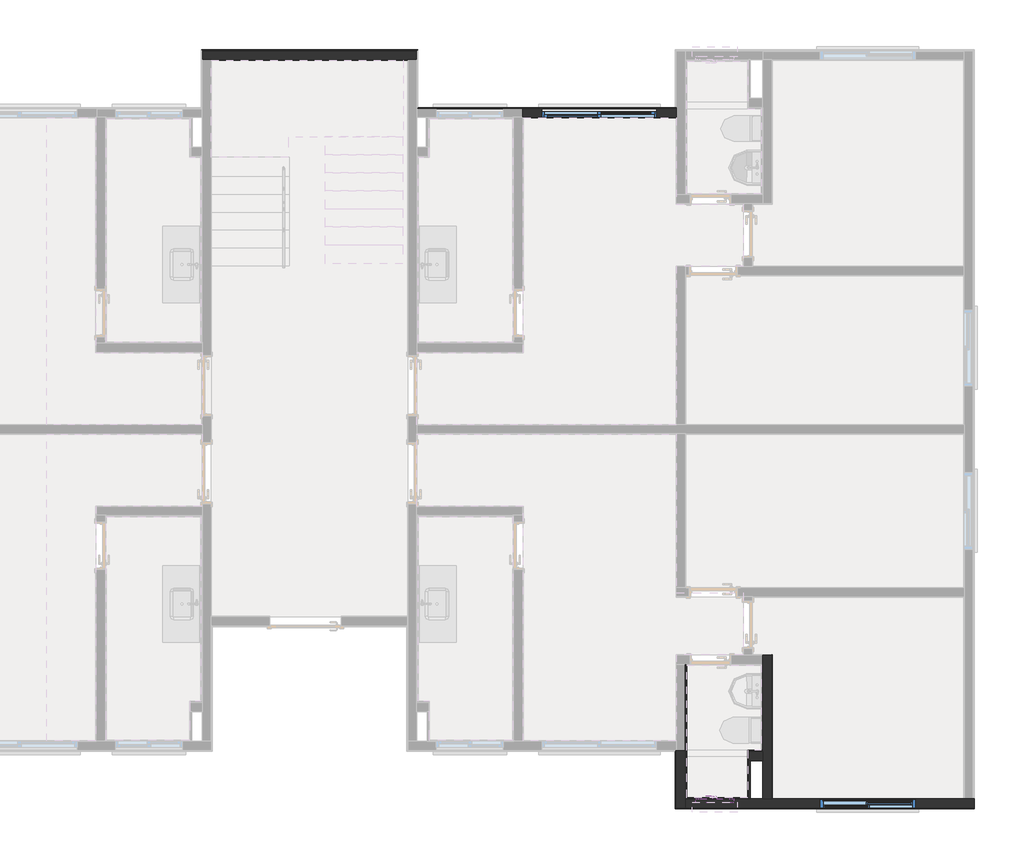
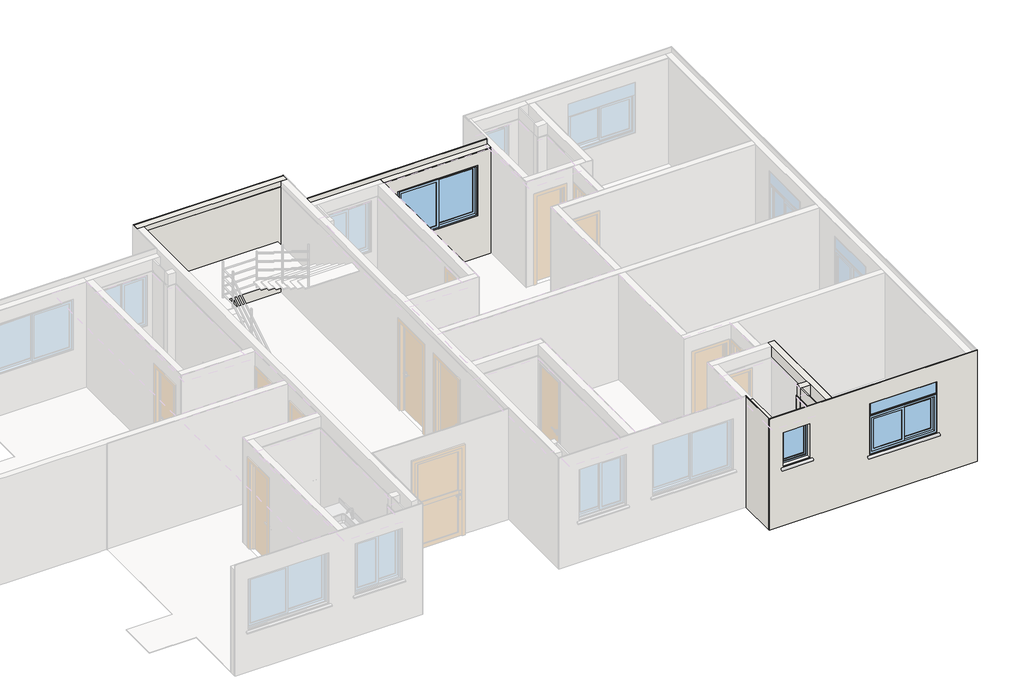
# One storey, part 7 of 11: 21 walls, 3 windows.
"""IFC4 building model written with IfcOpenShell, lengths in millimetres."""

from ifc_helpers import new_model, si_unit, frame, origin, origin_with_axes, place, context, project, spatial, polyline, outline, extrude, faceted_brep, transform, mapped, element, save
from components import window_150x120_d34a449e, window_180x120_f0fd8075, window_60x80_6d4336cf

model = new_model("IFC4")

# Units and contexts
model_context = context("Model", 3, world=origin())
ifc_project = project(units=[si_unit("LENGTHUNIT", "METRE", prefix="MILLI")], contexts=[model_context])

# Site, building, storey
site = spatial("IfcSite", under=ifc_project)
building = spatial("IfcBuilding", under=site)
storey = spatial("IfcBuildingStorey", under=building, Name="Térreo", Elevation=0.0)

# Walls
placement = place(None, origin())
element("IfcWall", 1, ObjectType="Mureta box", at=placement, inside=storey, context=model_context, shape_type="SweptSolid", body=[
    extrude(outline(polyline([(17290.0007274, 1294.9970972), (16310.0007274, 1294.9970972), (16310.0007274, 1304.9970972), (17290.0007274, 1304.9970972), (17290.0007274, 1294.9970972)])), origin_with_axes(), (0.0, 0.0, 1.0), 90.0),
    extrude(outline(polyline([(16310.0007274, 1374.9970972), (17290.0007274, 1374.9970972), (17290.0007274, 1364.9970972), (16310.0007274, 1364.9970972), (16310.0007274, 1374.9970972)])), origin_with_axes(), (0.0, 0.0, 1.0), 90.0),
    extrude(outline(polyline([(17290.0007274, 1294.9970972), (16310.0007274, 1294.9970972), (16310.0007274, 1304.9970972), (17290.0007274, 1304.9970972), (17290.0007274, 1294.9970972)])), origin_with_axes(), (0.0, 0.0, 1.0), 90.0),
    extrude(outline(polyline([(16310.0007274, 1374.9970972), (17290.0007274, 1374.9970972), (17290.0007274, 1364.9970972), (16310.0007274, 1364.9970972), (16310.0007274, 1374.9970972)])), origin_with_axes(), (0.0, 0.0, 1.0), 90.0),
    extrude(outline(polyline([(17290.0007274, 1364.9970972), (17290.0007274, 1304.9970972), (16310.0007274, 1304.9970972), (16310.0007274, 1364.9970972), (17290.0007274, 1364.9970972)])), origin_with_axes(), (0.0, 0.0, 1.0), 90.0),
    extrude(outline(polyline([(17290.0007274, 1364.9970972), (17290.0007274, 1304.9970972), (16310.0007274, 1304.9970972), (16310.0007274, 1364.9970972), (17290.0007274, 1364.9970972)])), origin_with_axes(), (0.0, 0.0, 1.0), 90.0),
])
element("IfcWall", 2, ObjectType="Alvenaria Estrutural", at=placement, inside=storey, context=model_context, shape_type="Brep", body=[
    faceted_brep([(12089.9984066, 12179.9995833, 0.0), (12089.9984066, 12179.9995833, 2630.0), (11949.9984066, 12179.9995833, 2630.0), (8869.9963008, 12179.9995833, 2630.0), (8729.9963008, 12179.9995833, 2630.0), (8729.9963008, 12179.9995833, 0.0), (8869.9963008, 12179.9995833, 0.0), (8875.9991022, 12179.9995833, 0.0), (11949.9984066, 12179.9995833, 0.0), (12089.9984066, 12319.9995833, 0.0), (8729.9963008, 12319.9995833, 0.0), (8729.9963008, 12319.9995833, 2630.0), (12089.9984066, 12319.9995833, 2630.0)], [[[0, 1, 2, 3, 4, 5, 6, 7, 8]], [[9, 10, 11, 12]], [[6, 5, 10, 9, 0, 8, 7]], [[2, 1, 12, 11, 4, 3]], [[5, 4, 11, 10]], [[1, 0, 9, 12]]]),
    faceted_brep([(11949.9984066, 12179.9995833, 2630.0), (12089.9984066, 12179.9995833, 2630.0), (12089.9984066, 12319.9995833, 2630.0), (8729.9963008, 12319.9995833, 2630.0), (8729.9963008, 12179.9995833, 2630.0), (8869.9963008, 12179.9995833, 2630.0), (8729.9963008, 12179.9995833, 0.0), (8729.9963008, 12319.9995833, 0.0), (12089.9984066, 12319.9995833, 0.0), (12089.9984066, 12179.9995833, 0.0), (8869.9963008, 12179.9995833, 0.0), (8875.9991022, 12179.9995833, 0.0), (11949.9984066, 12179.9995833, 0.0)], [[[0, 1, 2, 3, 4, 5]], [[6, 4, 3, 7]], [[7, 3, 2, 8]], [[9, 1, 0, 5, 4, 6, 10, 11, 12]], [[1, 9, 8, 2]], [[9, 12, 11, 10, 6, 7, 8]]]),
])
element("IfcWall", 3, ObjectType="Alvenaria Estrutural", at=placement, inside=storey, context=model_context, shape_type="Brep", body=[
    faceted_brep([(17499.9970535, 1359.9970972, 0.0), (17280.0007274, 1359.9970972, 0.0), (17280.0007274, 1359.9970972, 2510.0), (17499.9970535, 1359.9970972, 2510.0), (17499.9970535, 1219.9970972, 0.0), (17499.9970535, 1219.9970972, 2510.0), (17303.0007274, 1219.9970972, 2510.0), (17280.0007274, 1219.9970972, 2510.0), (17280.0007274, 1219.9970972, 0.0), (17303.0007274, 1219.9970972, 0.0)], [[[0, 1, 2, 3]], [[4, 5, 6, 7, 8, 9]], [[1, 0, 4, 9, 8]], [[3, 2, 7, 6, 5]], [[2, 1, 8, 7]], [[0, 3, 5, 4]]]),
    faceted_brep([(17499.9970535, 1359.9970972, 0.0), (17280.0007274, 1359.9970972, 0.0), (17280.0007274, 1359.9970972, 2510.0), (17499.9970535, 1359.9970972, 2510.0), (17499.9970535, 1219.9970972, 0.0), (17303.0007274, 1219.9970972, 0.0), (17280.0007274, 1219.9970972, 0.0), (17280.0007274, 1219.9970972, 2510.0), (17303.0007274, 1219.9970972, 2510.0), (17499.9970535, 1219.9970972, 2510.0)], [[[0, 1, 2, 3]], [[1, 0, 4, 5, 6]], [[3, 2, 7, 8, 9]], [[4, 9, 8, 7, 6, 5]], [[2, 1, 6, 7]], [[0, 3, 9, 4]]]),
])
element("IfcWall", 4, ObjectType="Alvenaria Estrutural", at=placement, inside=storey, context=model_context, shape_type="Brep", body=[
    faceted_brep([(17639.9970535, 619.9952456, 0.0), (17639.9970535, 625.9952456, 0.0), (17639.9970535, 2869.9967615, 0.0), (17639.9970535, 2869.9967615, 2510.0), (17639.9970535, 625.9952456, 2510.0), (17639.9970535, 619.9952456, 2510.0), (17499.9970535, 619.9952456, 0.0), (17499.9970535, 619.9952456, 2510.0), (17499.9970535, 1219.9970972, 2510.0), (17499.9970535, 1359.9970972, 2510.0), (17499.9970535, 2729.9967615, 2510.0), (17499.9970535, 2869.9967615, 2510.0), (17499.9970535, 2869.9967615, 0.0), (17499.9970535, 2729.9967615, 0.0), (17499.9970535, 2709.9967615, 0.0), (17499.9970535, 1379.9970972, 0.0), (17499.9970535, 1359.9970972, 0.0), (17499.9970535, 1219.9970972, 0.0)], [[[0, 1, 2, 3, 4, 5]], [[6, 7, 8, 9, 10, 11, 12, 13, 14, 15, 16, 17]], [[1, 0, 6, 17, 16, 15, 14, 13, 12, 2]], [[4, 3, 11, 10, 9, 8, 7, 5]], [[3, 2, 12, 11]], [[0, 5, 7, 6]]]),
    faceted_brep([(17639.9970535, 625.9952456, 0.0), (17639.9970535, 619.9952456, 0.0), (17499.9970535, 619.9952456, 0.0), (17499.9970535, 1219.9970972, 0.0), (17499.9970535, 1359.9970972, 0.0), (17499.9970535, 1379.9970972, 0.0), (17499.9970535, 2709.9967615, 0.0), (17499.9970535, 2729.9967615, 0.0), (17499.9970535, 2869.9967615, 0.0), (17639.9970535, 2869.9967615, 0.0), (17639.9970535, 625.9952456, 2510.0), (17639.9970535, 2869.9967615, 2510.0), (17499.9970535, 2869.9967615, 2510.0), (17499.9970535, 2729.9967615, 2510.0), (17499.9970535, 1359.9970972, 2510.0), (17499.9970535, 1219.9970972, 2510.0), (17499.9970535, 619.9952456, 2510.0), (17639.9970535, 619.9952456, 2510.0)], [[[0, 1, 2, 3, 4, 5, 6, 7, 8, 9]], [[10, 11, 12, 13, 14, 15, 16, 17]], [[1, 0, 9, 11, 10, 17]], [[2, 16, 15, 14, 13, 12, 8, 7, 6, 5, 4, 3]], [[11, 9, 8, 12]], [[1, 17, 16, 2]]]),
])
element("IfcWall", 5, ObjectType="Alvenaria Estrutural", at=placement, inside=storey, context=model_context, shape_type="Brep", body=[
    faceted_brep([(16289.9960602, 479.9952456, 0.0), (16289.9960602, 619.9952456, 0.0), (16289.9960602, 1374.9970972, 0.0), (16289.9960602, 1374.9970972, 2510.0), (16289.9960602, 619.9952456, 2510.0), (16289.9960602, 479.9952456, 2510.0), (16149.9960602, 479.9952456, 0.0), (16149.9960602, 479.9952456, 2510.0), (16149.9960602, 1374.9970972, 2510.0), (16149.9960602, 1374.9970972, 0.0)], [[[0, 1, 2, 3, 4, 5]], [[6, 7, 8, 9]], [[1, 0, 6, 9, 2]], [[3, 2, 9, 8]], [[4, 3, 8, 7, 5]], [[0, 5, 7, 6]]]),
    faceted_brep([(16289.9960602, 619.9952456, 0.0), (16289.9960602, 479.9952456, 0.0), (16149.9960602, 479.9952456, 0.0), (16149.9960602, 1374.9970972, 0.0), (16289.9960602, 1374.9970972, 0.0), (16289.9960602, 1374.9970972, 2510.0), (16149.9960602, 1374.9970972, 2510.0), (16289.9960602, 619.9952456, 2510.0), (16149.9960602, 479.9952456, 2510.0), (16289.9960602, 479.9952456, 2510.0)], [[[0, 1, 2, 3, 4]], [[5, 4, 3, 6]], [[7, 5, 6, 8, 9]], [[2, 8, 6, 3]], [[1, 0, 4, 5, 7, 9]], [[1, 9, 8, 2]]]),
])
element("IfcWall", 6, ObjectType="Alvenaria Estrutural", at=placement, inside=storey, context=model_context, shape_type="Brep", body=[
    faceted_brep([(16149.9956991, 11420.0223004, 0.0), (16133.9970535, 11420.0223004, 0.0), (13739.9956991, 11420.0223004, 0.0), (13739.9956991, 11420.0223004, 2510.0), (16149.9956991, 11420.0223004, 2510.0), (14044.9954574, 11420.0223004, 2200.0), (14044.9954574, 11420.0223004, 1000.0), (13994.9954574, 11420.0223004, 1000.0), (13994.9954574, 11420.0223004, 951.3083694), (15894.9954574, 11420.0223004, 951.3083694), (15894.9954574, 11420.0223004, 1000.0), (15844.9954574, 11420.0223004, 1000.0), (15844.9954574, 11420.0223004, 2200.0), (13739.9956991, 11280.0223004, 0.0), (13746.9960213, 11280.0223004, 0.0), (13752.9960213, 11280.0223004, 0.0), (16143.9956991, 11280.0223004, 0.0), (16149.9956991, 11280.0223004, 0.0), (16149.9956991, 11280.0223004, 2510.0), (16143.9956991, 11280.0223004, 2510.0), (13752.9960213, 11280.0223004, 2510.0), (13746.9960213, 11280.0223004, 2510.0), (13739.9956991, 11280.0223004, 2510.0), (14044.9954574, 11280.0223004, 1000.0), (14044.9954574, 11280.0223004, 2200.0), (15844.9954574, 11280.0223004, 2200.0), (15844.9954574, 11280.0223004, 1000.0), (14044.9954574, 11322.5223004, 1000.0), (15844.9954574, 11322.5223004, 1000.0), (15894.9954574, 11322.5223004, 972.0326341), (15894.9954574, 11322.5223004, 1000.0), (13994.9954574, 11322.5223004, 1000.0), (13994.9954574, 11322.5223004, 972.0326341)], [[[0, 1, 2, 3, 4], [5, 6, 7, 8, 9, 10, 11, 12]], [[13, 14, 15, 16, 17, 18, 19, 20, 21, 22], [23, 24, 25, 26]], [[1, 0, 17, 16, 15, 14, 13, 2]], [[3, 2, 13, 22]], [[4, 3, 22, 21, 20, 19, 18]], [[0, 4, 18, 17]], [[6, 5, 24, 23, 27]], [[5, 12, 25, 24]], [[12, 11, 28, 26, 25]], [[23, 26, 28, 27]], [[10, 9, 29, 30]], [[8, 7, 31, 32]], [[27, 28, 30, 29, 32, 31]], [[11, 10, 30, 28]], [[9, 8, 32, 29]], [[7, 6, 27, 31]]]),
    faceted_brep([(16133.9970535, 11420.0223004, 0.0), (16149.9956991, 11420.0223004, 0.0), (16149.9956991, 11280.0223004, 0.0), (16143.9956991, 11280.0223004, 0.0), (13752.9960213, 11280.0223004, 0.0), (13746.9960213, 11280.0223004, 0.0), (13739.9956991, 11280.0223004, 0.0), (13739.9956991, 11420.0223004, 0.0), (13739.9956991, 11420.0223004, 2510.0), (13739.9956991, 11280.0223004, 2510.0), (16149.9956991, 11420.0223004, 2510.0), (13746.9960213, 11280.0223004, 2510.0), (13752.9960213, 11280.0223004, 2510.0), (16143.9956991, 11280.0223004, 2510.0), (16149.9956991, 11280.0223004, 2510.0), (14044.9954574, 11420.0223004, 1000.0), (14044.9954574, 11420.0223004, 2200.0), (14044.9954574, 11280.0223004, 2200.0), (14044.9954574, 11280.0223004, 1000.0), (14044.9954574, 11322.5223004, 1000.0), (15844.9954574, 11420.0223004, 2200.0), (15844.9954574, 11280.0223004, 2200.0), (15844.9954574, 11420.0223004, 1000.0), (15844.9954574, 11322.5223004, 1000.0), (15844.9954574, 11280.0223004, 1000.0), (15894.9954574, 11420.0223004, 1000.0), (15894.9954574, 11420.0223004, 951.3083694), (15894.9954574, 11322.5223004, 972.0326341), (15894.9954574, 11322.5223004, 1000.0), (13994.9954574, 11420.0223004, 951.3083694), (13994.9954574, 11420.0223004, 1000.0), (13994.9954574, 11322.5223004, 1000.0), (13994.9954574, 11322.5223004, 972.0326341)], [[[0, 1, 2, 3, 4, 5, 6, 7]], [[8, 7, 6, 9]], [[10, 8, 9, 11, 12, 13, 14]], [[1, 10, 14, 2]], [[15, 16, 17, 18, 19]], [[16, 20, 21, 17]], [[20, 22, 23, 24, 21]], [[18, 24, 23, 19]], [[25, 26, 27, 28]], [[29, 30, 31, 32]], [[19, 23, 28, 27, 32, 31]], [[22, 25, 28, 23]], [[26, 29, 32, 27]], [[30, 15, 19, 31]], [[6, 5, 4, 3, 2, 14, 13, 12, 11, 9], [18, 17, 21, 24]], [[1, 0, 7, 8, 10], [16, 15, 30, 29, 26, 25, 22, 20]]]),
])
element("IfcWall", 7, ObjectType="Alvenaria Estrutural", at=placement, inside=storey, context=model_context, shape_type="Brep", body=[
    faceted_brep([(20805.9970535, 619.9952456, 0.0), (20789.9970535, 619.9952456, 0.0), (20649.9955249, 619.9952456, 0.0), (20643.9955249, 619.9952456, 0.0), (17639.9970535, 619.9952456, 0.0), (17499.9970535, 619.9952456, 0.0), (17303.0007274, 619.9952456, 0.0), (17280.0007274, 619.9952456, 0.0), (16309.9956991, 619.9952456, 0.0), (16289.9960602, 619.9952456, 0.0), (16289.9960602, 619.9952456, 2250.0), (16289.9960602, 619.9952456, 2510.0), (17280.0007274, 619.9952456, 2510.0), (17303.0007274, 619.9952456, 2510.0), (17499.9970535, 619.9952456, 2510.0), (17639.9970535, 619.9952456, 2510.0), (20643.9955249, 619.9952456, 2510.0), (20649.9955249, 619.9952456, 2510.0), (20789.9970535, 619.9952456, 2510.0), (20805.9970535, 619.9952456, 2510.0), (16449.9960602, 619.9952456, 2200.0), (16449.9960602, 619.9952456, 1400.0), (17049.9960602, 619.9952456, 1400.0), (17049.9960602, 619.9952456, 2200.0), (18394.9962631, 619.9952456, 2200.0), (18394.9962631, 619.9952456, 1000.0), (19894.9962631, 619.9952456, 1000.0), (19894.9962631, 619.9952456, 2200.0), (16289.9960602, 479.9952456, 0.0), (20805.9970535, 479.9952456, 0.0), (20805.9970535, 479.9952456, 2510.0), (20789.9970535, 479.9952456, 2510.0), (16289.9960602, 479.9952456, 2510.0), (17099.9960602, 479.9952456, 1400.0), (17099.9960602, 479.9952456, 1351.3083694), (16399.9960602, 479.9952456, 1351.3083694), (16399.9960602, 479.9952456, 1400.0), (16449.9960602, 479.9952456, 1400.0), (16449.9960602, 479.9952456, 2200.0), (17049.9960602, 479.9952456, 2200.0), (17049.9960602, 479.9952456, 1400.0), (19944.9962631, 479.9952456, 1000.0), (19944.9962631, 479.9952456, 951.3083694), (18344.9962631, 479.9952456, 951.3083694), (18344.9962631, 479.9952456, 1000.0), (18394.9962631, 479.9952456, 1000.0), (18394.9962631, 479.9952456, 2200.0), (19894.9962631, 479.9952456, 2200.0), (19894.9962631, 479.9952456, 1000.0), (19944.9962631, 577.4952456, 1000.0), (19944.9962631, 577.4952456, 972.0326341), (18344.9962631, 577.4952456, 972.0326341), (18344.9962631, 577.4952456, 1000.0), (19894.9962631, 577.4952456, 1000.0), (18394.9962631, 577.4952456, 1000.0), (17099.9960602, 577.4952456, 1400.0), (17099.9960602, 577.4952456, 1372.0326341), (16399.9960602, 577.4952456, 1372.0326341), (16399.9960602, 577.4952456, 1400.0), (17049.9960602, 577.4952456, 1400.0), (16449.9960602, 577.4952456, 1400.0)], [[[0, 1, 2, 3, 4, 5, 6, 7, 8, 9, 10, 11, 12, 13, 14, 15, 16, 17, 18, 19], [20, 21, 22, 23], [24, 25, 26, 27]], [[28, 29, 30, 31, 32], [33, 34, 35, 36, 37, 38, 39, 40], [41, 42, 43, 44, 45, 46, 47, 48]], [[1, 0, 29, 28, 9, 8, 7, 6, 5, 4, 3, 2]], [[12, 11, 32, 31, 30, 19, 18, 17, 16, 15, 14, 13]], [[42, 41, 49, 50]], [[44, 43, 51, 52]], [[50, 49, 53, 54, 52, 51]], [[41, 48, 53, 49]], [[43, 42, 50, 51]], [[25, 24, 46, 45, 54]], [[24, 27, 47, 46]], [[27, 26, 53, 48, 47]], [[26, 25, 54, 53]], [[34, 33, 55, 56]], [[36, 35, 57, 58]], [[56, 55, 59, 60, 58, 57]], [[33, 40, 59, 55]], [[35, 34, 56, 57]], [[21, 20, 38, 37, 60]], [[20, 23, 39, 38]], [[23, 22, 59, 40, 39]], [[22, 21, 60, 59]], [[0, 19, 30, 29]], [[10, 9, 28, 32, 11]], [[37, 36, 58, 60]], [[45, 44, 52, 54]]]),
])
element("IfcWall", 8, ObjectType="Azulejo", at=placement, inside=storey, context=model_context, shape_type="SolidModel", body=[
    faceted_brep([(16299.9956991, 2709.9967615, 0.0), (16309.9956991, 2709.9967615, 0.0), (16309.9956991, 639.9950349, 0.0), (16309.9956991, 629.9950349, 0.0), (16299.9956991, 629.9950349, 0.0), (16309.9956991, 639.9950349, 2250.0), (16309.9956991, 2709.9967615, 2250.0), (16299.9956991, 2709.9967615, 2250.0), (16299.9956991, 629.9950349, 2250.0), (16309.9956991, 629.9950349, 2250.0)], [[[0, 1, 2, 3, 4]], [[5, 6, 7, 8, 9]], [[1, 0, 7, 6]], [[7, 0, 4, 8]], [[2, 1, 6, 5, 9, 3]], [[4, 3, 9, 8]]]),
    extrude(outline(polyline([(16289.9956991, 619.9952456), (16289.9956991, 2719.9967615), (16299.9956991, 2719.9967615), (16299.9956991, 619.9952456), (16289.9956991, 619.9952456)])), origin_with_axes(), (0.0, 0.0, 1.0), 2250.0),
])
element("IfcWall", 9, ObjectType="Azulejo", at=placement, inside=storey, context=model_context, shape_type="SolidModel", body=[
    faceted_brep([(17270.0007274, 639.9950349, 0.0), (17280.0007274, 639.9950349, 0.0), (17280.0007274, 629.9950349, 0.0), (16309.9956991, 629.9950349, 0.0), (16309.9956991, 639.9950349, 0.0), (17270.0007274, 639.9950349, 2250.0), (16309.9956991, 639.9950349, 2250.0), (16309.9956991, 629.9950349, 2250.0), (17280.0007274, 629.9950349, 2250.0), (17280.0007274, 639.9950349, 2250.0), (16449.9960602, 639.9950349, 1400.0), (16449.9960602, 639.9950349, 2200.0), (16449.9960602, 629.9950349, 2200.0), (16449.9960602, 629.9950349, 1400.0), (17049.9960602, 639.9950349, 2200.0), (17049.9960602, 629.9950349, 2200.0), (17049.9960602, 639.9950349, 1400.0), (17049.9960602, 629.9950349, 1400.0)], [[[0, 1, 2, 3, 4]], [[5, 6, 7, 8, 9]], [[10, 11, 12, 13]], [[11, 14, 15, 12]], [[14, 16, 17, 15]], [[16, 10, 13, 17]], [[6, 4, 3, 7]], [[1, 9, 8, 2]], [[3, 2, 8, 7], [13, 12, 15, 17]], [[4, 6, 5, 9, 1, 0], [10, 16, 14, 11]]]),
    extrude(outline(polyline([(0.0, 16299.9956991), (0.0, 17280.0007274), (2250.0, 17280.0007274), (2250.0, 16299.9956991), (0.0, 16299.9956991)]), holes=[polyline([(1400.0, 16449.9960602), (2200.0, 16449.9960602), (2200.0, 17049.9960602), (1400.0, 17049.9960602), (1400.0, 16449.9960602)])]), frame((0.0, 619.9950349, 0.0), z_axis=(0.0, 1.0, 0.0), x_axis=(0.0, 0.0, 1.0)), (0.0, 0.0, 1.0), 10.0),
])
element("IfcWall", 10, ObjectType="Azulejo", at=placement, inside=storey, context=model_context, shape_type="SweptSolid", body=[
    extrude(outline(polyline([(17270.0007274, 1219.9970972), (17270.0007274, 1369.9970972), (17280.0007274, 1369.9970972), (17280.0007274, 1219.9970972), (17270.0007274, 1219.9970972)])), origin_with_axes(), (0.0, 0.0, 1.0), 2250.0),
    extrude(outline(polyline([(17290.0007274, 1359.9970972), (17290.0007274, 1219.9970972), (17280.0007274, 1219.9970972), (17280.0007274, 1359.9970972), (17290.0007274, 1359.9970972)])), origin_with_axes(), (0.0, 0.0, 1.0), 2250.0),
])
element("IfcWall", 11, ObjectType="Azulejo", at=placement, inside=storey, context=model_context, shape_type="Brep", body=[
    faceted_brep([(17270.0007274, 1369.9970972, 0.0), (17270.0007274, 1379.9970972, 0.0), (17479.9970535, 1379.9970972, 0.0), (17489.9970535, 1379.9970972, 0.0), (17489.9970535, 1369.9970972, 0.0), (17479.9970535, 1379.9970972, 2250.0), (17270.0007274, 1379.9970972, 2250.0), (17270.0007274, 1369.9970972, 2250.0), (17489.9970535, 1369.9970972, 2250.0), (17489.9970535, 1379.9970972, 2250.0)], [[[0, 1, 2, 3, 4]], [[5, 6, 7, 8, 9]], [[1, 0, 7, 6]], [[7, 0, 4, 8]], [[2, 1, 6, 5, 9, 3]], [[4, 3, 9, 8]]]),
    faceted_brep([(17499.9970535, 1369.9970972, 0.0), (17280.0007274, 1369.9970972, 0.0), (17280.0007274, 1369.9970972, 2250.0), (17499.9970535, 1369.9970972, 2250.0), (17499.9970535, 1359.9970972, 0.0), (17499.9970535, 1359.9970972, 2250.0), (17290.0007274, 1359.9970972, 2250.0), (17280.0007274, 1359.9970972, 2250.0), (17280.0007274, 1359.9970972, 0.0), (17290.0007274, 1359.9970972, 0.0)], [[[0, 1, 2, 3]], [[4, 5, 6, 7, 8, 9]], [[9, 8, 1, 0, 4]], [[6, 5, 3, 2, 7]], [[5, 4, 0, 3]], [[8, 7, 2, 1]]]),
])
element("IfcWall", 12, ObjectType="Azulejo - Shaft", at=placement, inside=storey, context=model_context, shape_type="SweptSolid", body=[
    extrude(outline(polyline([(17280.0007274, 1219.9970972), (17280.0007274, 639.9950349), (17270.0007274, 639.9950349), (17270.0007274, 1219.9970972), (17280.0007274, 1219.9970972)])), origin_with_axes(), (0.0, 0.0, 1.0), 2250.0),
])
element("IfcWall", 13, ObjectType="Gesso Liso + Pintura", at=placement, inside=storey, context=model_context, shape_type="SolidModel", body=[
    faceted_brep([(17645.9970535, 625.9952456, 0.0), (20643.9955249, 625.9952456, 0.0), (20643.9955249, 624.9952456, 0.0), (17644.9970535, 624.9952456, 0.0), (17644.9970535, 625.9952456, 0.0), (20643.9955249, 624.9952456, 2510.0), (20643.9955249, 625.9952456, 2510.0), (17645.9970535, 625.9952456, 2510.0), (17644.9970535, 625.9952456, 2510.0), (17644.9970535, 624.9952456, 2510.0), (18394.9962631, 625.9952456, 1000.0), (18394.9962631, 625.9952456, 2200.0), (18394.9962631, 624.9952456, 2200.0), (18394.9962631, 624.9952456, 1000.0), (19894.9962631, 625.9952456, 2200.0), (19894.9962631, 624.9952456, 2200.0), (19894.9962631, 625.9952456, 1000.0), (19894.9962631, 624.9952456, 1000.0)], [[[0, 1, 2, 3, 4]], [[5, 6, 7, 8, 9]], [[10, 11, 12, 13]], [[12, 11, 14, 15]], [[15, 14, 16, 17]], [[10, 13, 17, 16]], [[2, 1, 6, 5]], [[2, 5, 9, 3], [13, 12, 15, 17]], [[1, 0, 4, 8, 7, 6], [11, 10, 16, 14]], [[4, 3, 9, 8]]]),
    extrude(outline(polyline([(0.0, 20644.9955249), (2510.0, 20644.9955249), (2510.0, 17639.9970535), (0.0, 17639.9970535), (0.0, 20644.9955249)]), holes=[polyline([(1000.0, 18394.9962631), (2200.0, 18394.9962631), (2200.0, 19894.9962631), (1000.0, 19894.9962631), (1000.0, 18394.9962631)])]), frame((0.0, 619.9952456, 0.0), z_axis=(0.0, 1.0, 0.0), x_axis=(0.0, 0.0, 1.0)), (0.0, 0.0, 1.0), 5.0),
])
element("IfcWall", 14, ObjectType="Gesso Liso + Pintura", at=placement, inside=storey, context=model_context, shape_type="SolidModel", body=[
    extrude(outline(polyline([(17645.9970535, 2875.9967615), (17645.9970535, 625.9952456), (17644.9970535, 625.9952456), (17644.9970535, 2875.9967615), (17645.9970535, 2875.9967615)])), origin_with_axes(), (0.0, 0.0, 1.0), 2510.0),
    faceted_brep([(17644.9970535, 624.9952456, 0.0), (17644.9970535, 2874.9967615, 0.0), (17644.9970535, 2874.9967615, 2510.0), (17644.9970535, 624.9952456, 2510.0), (17639.9970535, 624.9952456, 0.0), (17639.9970535, 624.9952456, 2510.0), (17639.9970535, 2869.9967615, 2510.0), (17639.9970535, 2874.9967615, 2510.0), (17639.9970535, 2874.9967615, 0.0), (17639.9970535, 2869.9967615, 0.0)], [[[0, 1, 2, 3]], [[4, 5, 6, 7, 8, 9]], [[9, 8, 1, 0, 4]], [[6, 5, 3, 2, 7]], [[5, 4, 0, 3]], [[8, 7, 2, 1]]]),
])
element("IfcWall", 15, ObjectType="Gesso Liso + Pintura", at=placement, inside=storey, context=model_context, shape_type="SweptSolid", body=[
    extrude(outline(polyline([(0.0, 13746.9960213), (0.0, 16149.9960602), (2510.0, 16149.9960602), (2510.0, 13746.9960213), (0.0, 13746.9960213)]), holes=[polyline([(1000.0, 14044.9954574), (2200.0, 14044.9954574), (2200.0, 15844.9954574), (1000.0, 15844.9954574), (1000.0, 14044.9954574)])]), frame((0.0, 11274.0223004, 0.0), z_axis=(0.0, 1.0, 0.0), x_axis=(0.0, 0.0, 1.0)), (0.0, 0.0, 1.0), 1.0),
    extrude(outline(polyline([(0.0, 13746.9960213), (0.0, 16149.9960602), (2510.0, 16149.9960602), (2510.0, 13746.9960213), (0.0, 13746.9960213)]), holes=[polyline([(1000.0, 14044.9954574), (2200.0, 14044.9954574), (2200.0, 15844.9954574), (1000.0, 15844.9954574), (1000.0, 14044.9954574)])]), frame((0.0, 11275.0223004, 0.0), z_axis=(0.0, 1.0, 0.0), x_axis=(0.0, 0.0, 1.0)), (0.0, 0.0, 1.0), 5.0),
])
element("IfcWall", 16, ObjectType="Gesso Liso + Pintura", at=placement, inside=storey, context=model_context, shape_type="SolidModel", body=[
    faceted_brep([(11943.9984066, 12173.9995833, 0.0), (8875.9991022, 12173.9995833, 0.0), (8875.9991022, 12174.9995833, 0.0), (11944.9984066, 12174.9995833, 0.0), (11944.9984066, 12173.9995833, 0.0), (8875.9991022, 12174.9995833, 2510.0), (8875.9991022, 12173.9995833, 2510.0), (11943.9984066, 12173.9995833, 2510.0), (11944.9984066, 12173.9995833, 2510.0), (11944.9984066, 12174.9995833, 2510.0)], [[[0, 1, 2, 3, 4]], [[5, 6, 7, 8, 9]], [[2, 1, 6, 5]], [[2, 5, 9, 3]], [[1, 0, 4, 8, 7, 6]], [[4, 3, 9, 8]]]),
    extrude(outline(polyline([(8874.9991022, 12179.9995833), (11949.9984066, 12179.9995833), (11949.9984066, 12174.9995833), (8874.9991022, 12174.9995833), (8874.9991022, 12179.9995833)])), origin_with_axes(), (0.0, 0.0, 1.0), 2510.0),
])
element("IfcWall", 17, ObjectType="Reboco + Pintura Externa", at=placement, inside=storey, context=model_context, shape_type="Brep", body=[
    faceted_brep([(16449.9960602, 464.9952456, 1400.0), (16449.9960602, 464.9952456, 2200.0), (16449.9960602, 463.9952456, 2200.0), (16449.9960602, 463.9952456, 1400.0), (17049.9960602, 464.9952456, 1400.0), (17049.9960602, 463.9952456, 1400.0), (17049.9960602, 464.9952456, 2200.0), (17049.9960602, 463.9952456, 2200.0), (18394.9962631, 464.9952456, 1000.0), (18394.9962631, 464.9952456, 2200.0), (18394.9962631, 463.9952456, 2200.0), (18394.9962631, 463.9952456, 1000.0), (19894.9962631, 464.9952456, 1000.0), (19894.9962631, 463.9952456, 1000.0), (19894.9962631, 464.9952456, 2200.0), (19894.9962631, 463.9952456, 2200.0), (16133.9960602, 464.9952456, 0.0), (20805.9970535, 464.9952456, 0.0), (20805.9970535, 463.9952456, 0.0), (16133.9960602, 463.9952456, 0.0), (16133.9960602, 464.9952456, 2510.0), (16133.9960602, 463.9952456, 2510.0), (16133.9960602, 463.9952456, 2630.0), (16133.9960602, 464.9952456, 2630.0), (20805.9970535, 464.9952456, 2510.0), (20805.9970535, 464.9952456, 2630.0), (20805.9970535, 463.9952456, 2630.0), (20805.9970535, 463.9952456, 2510.0)], [[[0, 1, 2, 3]], [[4, 0, 3, 5]], [[6, 4, 5, 7]], [[1, 6, 7, 2]], [[8, 9, 10, 11]], [[12, 8, 11, 13]], [[14, 12, 13, 15]], [[9, 14, 15, 10]], [[16, 17, 18, 19]], [[20, 16, 19, 21, 22, 23]], [[17, 24, 25, 26, 27, 18]], [[17, 16, 20, 23, 25, 24], [1, 0, 4, 6], [9, 8, 12, 14]], [[19, 18, 27, 26, 22, 21], [3, 2, 7, 5], [11, 10, 15, 13]], [[25, 23, 22, 26]]]),
    faceted_brep([(16144.9960602, 474.9952456, 0.0), (20805.9970535, 474.9952456, 0.0), (20805.9970535, 474.9952456, 2510.0), (20805.9970535, 474.9952456, 2630.0), (16144.9960602, 474.9952456, 2630.0), (16144.9960602, 474.9952456, 2510.0), (18394.9962631, 474.9952456, 1000.0), (18394.9962631, 474.9952456, 2200.0), (19894.9962631, 474.9952456, 2200.0), (19894.9962631, 474.9952456, 1000.0), (16449.9960602, 474.9952456, 1400.0), (16449.9960602, 474.9952456, 2200.0), (17049.9960602, 474.9952456, 2200.0), (17049.9960602, 474.9952456, 1400.0), (16449.9960602, 479.9952456, 1400.0), (16449.9960602, 479.9952456, 2200.0), (17049.9960602, 479.9952456, 1400.0), (17049.9960602, 479.9952456, 2200.0), (18394.9962631, 479.9952456, 1000.0), (18394.9962631, 479.9952456, 2200.0), (19894.9962631, 479.9952456, 1000.0), (19894.9962631, 479.9952456, 2200.0), (16144.9960602, 479.9952456, 0.0), (16149.9960602, 479.9952456, 0.0), (16289.9960602, 479.9952456, 0.0), (20805.9970535, 479.9952456, 0.0), (20805.9970535, 479.9952456, 2510.0), (20805.9970535, 479.9952456, 2630.0), (16144.9960602, 479.9952456, 2510.0), (16144.9960602, 479.9952456, 2630.0), (16149.9960602, 479.9952456, 2630.0), (20789.9970535, 479.9952456, 2630.0)], [[[0, 1, 2, 3, 4, 5], [6, 7, 8, 9], [10, 11, 12, 13]], [[11, 10, 14, 15]], [[10, 13, 16, 14]], [[13, 12, 17, 16]], [[12, 11, 15, 17]], [[7, 6, 18, 19]], [[6, 9, 20, 18]], [[9, 8, 21, 20]], [[8, 7, 19, 21]], [[1, 0, 22, 23, 24, 25]], [[2, 1, 25, 26, 27, 3]], [[25, 24, 23, 22, 28, 29, 30, 31, 27, 26], [15, 14, 16, 17], [19, 18, 20, 21]], [[28, 22, 0, 5, 4, 29]], [[4, 3, 27, 31, 30, 29]]]),
    faceted_brep([(20805.9970535, 474.9952456, 0.0), (16134.9960602, 474.9952456, 0.0), (16134.9960602, 474.9952456, 2510.0), (16134.9960602, 474.9952456, 2630.0), (20805.9970535, 474.9952456, 2630.0), (20805.9970535, 474.9952456, 2510.0), (18394.9962631, 474.9952456, 2200.0), (18394.9962631, 474.9952456, 1000.0), (19894.9962631, 474.9952456, 1000.0), (19894.9962631, 474.9952456, 2200.0), (16449.9960602, 474.9952456, 2200.0), (16449.9960602, 474.9952456, 1400.0), (17049.9960602, 474.9952456, 1400.0), (17049.9960602, 474.9952456, 2200.0), (16449.9960602, 464.9952456, 2200.0), (16449.9960602, 464.9952456, 1400.0), (17049.9960602, 464.9952456, 1400.0), (17049.9960602, 464.9952456, 2200.0), (18394.9962631, 464.9952456, 2200.0), (18394.9962631, 464.9952456, 1000.0), (19894.9962631, 464.9952456, 1000.0), (19894.9962631, 464.9952456, 2200.0), (20805.9970535, 464.9952456, 0.0), (16134.9960602, 464.9952456, 0.0), (20805.9970535, 464.9952456, 2630.0), (20805.9970535, 464.9952456, 2510.0), (16134.9960602, 464.9952456, 2630.0), (16134.9960602, 464.9952456, 2510.0)], [[[0, 1, 2, 3, 4, 5], [6, 7, 8, 9], [10, 11, 12, 13]], [[11, 10, 14, 15]], [[12, 11, 15, 16]], [[13, 12, 16, 17]], [[10, 13, 17, 14]], [[7, 6, 18, 19]], [[8, 7, 19, 20]], [[9, 8, 20, 21]], [[6, 9, 21, 18]], [[1, 0, 22, 23]], [[0, 5, 4, 24, 25, 22]], [[23, 22, 25, 24, 26, 27], [15, 14, 17, 16], [19, 18, 21, 20]], [[1, 23, 27, 26, 3, 2]], [[4, 3, 26, 24]]]),
])
element("IfcWall", 18, ObjectType="Reboco + Pintura Externa", at=placement, inside=storey, context=model_context, shape_type="SolidModel", body=[
    faceted_brep([(16133.9960602, 464.9952456, 0.0), (16133.9960602, 1363.9983274, 0.0), (16133.9960602, 1364.9983274, 0.0), (16134.9960602, 1364.9983274, 0.0), (16134.9960602, 464.9952456, 0.0), (16134.9960602, 464.9952456, 10.0), (16134.9960602, 1364.9983274, 10.0), (16134.9960602, 1364.9983274, 2510.0), (16134.9960602, 1364.9983274, 2520.0), (16134.9960602, 1364.9983274, 2630.0), (16134.9960602, 464.9952456, 2630.0), (16134.9960602, 464.9952456, 2520.0), (16134.9960602, 464.9952456, 2510.0), (16133.9960602, 464.9952456, 10.0), (16133.9960602, 464.9952456, 2630.0), (16133.9960602, 464.9952456, 2520.0), (16133.9960602, 464.9952456, 2510.0), (16133.9960602, 1364.9983274, 10.0), (16133.9960602, 1364.9983274, 2510.0), (16133.9960602, 1364.9983274, 2520.0), (16133.9960602, 1364.9983274, 2630.0), (16133.9960602, 1363.9983274, 2630.0)], [[[0, 1, 2, 3, 4]], [[5, 4, 3, 6, 7, 8, 9, 10, 11, 12]], [[13, 0, 4, 5, 12, 11, 10, 14, 15, 16]], [[6, 3, 2, 17, 18, 19, 20, 9, 8, 7]], [[10, 9, 20, 21, 14]], [[1, 0, 13, 16, 15, 14, 21, 20, 19, 18, 17, 2]]]),
    extrude(outline(polyline([(16133.9960602, 1379.9983274), (16133.9960602, 1449.9983274), (16134.9960602, 1449.9983274), (16134.9960602, 1379.9983274), (16133.9960602, 1379.9983274)])), origin_with_axes(), (0.0, 0.0, 1.0), 10.0),
    faceted_brep([(16144.9960602, 1449.9983274, 10.0), (16144.9960602, 1379.9983274, 10.0), (16149.9960602, 1379.9983274, 10.0), (16149.9960602, 1449.9983274, 10.0), (16144.9960602, 1449.9983274, 0.0), (16144.9960602, 479.9952456, 0.0), (16144.9960602, 479.9952456, 10.0), (16144.9960602, 479.9952456, 2510.0), (16144.9960602, 479.9952456, 2520.0), (16144.9960602, 479.9952456, 2630.0), (16144.9960602, 1379.9983274, 2630.0), (16144.9960602, 1379.9983274, 2520.0), (16144.9960602, 1379.9983274, 2510.0), (16149.9960602, 1449.9983274, 0.0), (16149.9960602, 479.9952456, 0.0), (16149.9960602, 479.9952456, 10.0), (16149.9960602, 479.9952456, 2510.0), (16149.9960602, 479.9952456, 2520.0), (16149.9960602, 479.9952456, 2630.0), (16149.9960602, 1379.9983274, 2510.0), (16149.9960602, 1379.9983274, 2520.0), (16149.9960602, 1379.9983274, 2630.0)], [[[0, 1, 2, 3]], [[4, 5, 6, 7, 8, 9, 10, 11, 12, 1, 0]], [[5, 4, 13, 14]], [[4, 0, 3, 13]], [[6, 5, 14, 15, 16, 17, 18, 9, 8, 7]], [[14, 13, 3, 2, 19, 20, 21, 18, 17, 16, 15]], [[1, 12, 11, 10, 21, 20, 19, 2]], [[10, 9, 18, 21]]]),
    faceted_brep([(16144.9960602, 1379.9983274, 10.0), (16144.9960602, 1449.9983274, 10.0), (16143.9956991, 1449.9983274, 10.0), (16134.9960602, 1449.9983274, 10.0), (16134.9960602, 1379.9983274, 10.0), (16144.9960602, 474.9952456, 0.0), (16144.9960602, 1449.9983274, 0.0), (16144.9960602, 1379.9983274, 2510.0), (16144.9960602, 1379.9983274, 2520.0), (16144.9960602, 1379.9983274, 2630.0), (16144.9960602, 474.9952456, 2630.0), (16144.9960602, 474.9952456, 2520.0), (16144.9960602, 474.9952456, 2510.0), (16144.9960602, 474.9952456, 10.0), (16134.9960602, 474.9952456, 0.0), (16134.9960602, 1449.9983274, 0.0), (16143.9956991, 1449.9983274, 0.0), (16134.9960602, 474.9952456, 10.0), (16134.9960602, 474.9952456, 2510.0), (16134.9960602, 474.9952456, 2520.0), (16134.9960602, 474.9952456, 2630.0), (16134.9960602, 1379.9983274, 2630.0), (16134.9960602, 1379.9983274, 2520.0), (16134.9960602, 1379.9983274, 2510.0)], [[[0, 1, 2, 3, 4]], [[5, 6, 1, 0, 7, 8, 9, 10, 11, 12, 13]], [[6, 5, 14, 15, 16]], [[1, 6, 16, 15, 3, 2]], [[15, 14, 17, 18, 19, 20, 21, 22, 23, 4, 3]], [[14, 5, 13, 12, 11, 10, 20, 19, 18, 17]], [[7, 0, 4, 23, 22, 21, 9, 8]], [[10, 9, 21, 20]]]),
])
element("IfcWall", 19, ObjectType="Reboco + Pintura Externa", at=placement, inside=storey, context=model_context, shape_type="Brep", body=[
    faceted_brep([(16149.9960602, 11435.0223004, 0.0), (16149.9960602, 11435.0223004, 2510.0), (16149.9960602, 11435.0223004, 2630.0), (12104.9984066, 11435.0223004, 2630.0), (12104.9984066, 11435.0223004, 2510.0), (12104.9984066, 11435.0223004, 0.0), (12394.9954974, 11435.0223004, 1000.0), (12394.9954974, 11435.0223004, 2200.0), (13444.9954974, 11435.0223004, 2200.0), (13444.9954974, 11435.0223004, 1000.0), (14044.9954574, 11435.0223004, 1000.0), (14044.9954574, 11435.0223004, 2200.0), (15844.9954574, 11435.0223004, 2200.0), (15844.9954574, 11435.0223004, 1000.0), (14044.9954574, 11436.0223004, 1000.0), (14044.9954574, 11436.0223004, 2200.0), (15844.9954574, 11436.0223004, 1000.0), (15844.9954574, 11436.0223004, 2200.0), (12394.9954974, 11436.0223004, 1000.0), (12394.9954974, 11436.0223004, 2200.0), (13444.9954974, 11436.0223004, 1000.0), (13444.9954974, 11436.0223004, 2200.0), (12105.9984066, 11436.0223004, 0.0), (16149.9960602, 11436.0223004, 0.0), (12104.9984066, 11436.0223004, 0.0), (16149.9960602, 11436.0223004, 2510.0), (16149.9960602, 11436.0223004, 2630.0), (12104.9984066, 11436.0223004, 2510.0), (12104.9984066, 11436.0223004, 2630.0), (12105.9984066, 11436.0223004, 2630.0)], [[[0, 1, 2, 3, 4, 5], [6, 7, 8, 9], [10, 11, 12, 13]], [[11, 10, 14, 15]], [[10, 13, 16, 14]], [[13, 12, 17, 16]], [[12, 11, 15, 17]], [[7, 6, 18, 19]], [[6, 9, 20, 18]], [[9, 8, 21, 20]], [[8, 7, 19, 21]], [[22, 23, 0, 5, 24]], [[1, 0, 23, 25, 26, 2]], [[23, 22, 24, 27, 28, 29, 26, 25], [15, 14, 16, 17], [19, 18, 20, 21]], [[5, 4, 3, 28, 27, 24]], [[3, 2, 26, 29, 28]]]),
    faceted_brep([(14044.9954574, 11425.0223004, 1000.0), (14044.9954574, 11425.0223004, 2200.0), (14044.9954574, 11420.0223004, 2200.0), (14044.9954574, 11420.0223004, 1000.0), (15844.9954574, 11425.0223004, 1000.0), (15844.9954574, 11420.0223004, 1000.0), (15844.9954574, 11425.0223004, 2200.0), (15844.9954574, 11420.0223004, 2200.0), (12394.9954974, 11425.0223004, 1000.0), (12394.9954974, 11425.0223004, 2200.0), (12394.9954974, 11420.0223004, 2200.0), (12394.9954974, 11420.0223004, 1000.0), (13444.9954974, 11425.0223004, 1000.0), (13444.9954974, 11420.0223004, 1000.0), (13444.9954974, 11425.0223004, 2200.0), (13444.9954974, 11420.0223004, 2200.0), (12089.9984066, 11425.0223004, 0.0), (16149.9960602, 11425.0223004, 0.0), (16149.9960602, 11420.0223004, 0.0), (13739.9956991, 11420.0223004, 0.0), (12089.9984066, 11420.0223004, 0.0), (12089.9984066, 11425.0223004, 2510.0), (12089.9984066, 11420.0223004, 2510.0), (12089.9984066, 11420.0223004, 2630.0), (12089.9984066, 11425.0223004, 2630.0), (16149.9960602, 11425.0223004, 2510.0), (16149.9960602, 11425.0223004, 2630.0), (16149.9960602, 11420.0223004, 2630.0), (16149.9960602, 11420.0223004, 2510.0)], [[[0, 1, 2, 3]], [[4, 0, 3, 5]], [[6, 4, 5, 7]], [[1, 6, 7, 2]], [[8, 9, 10, 11]], [[12, 8, 11, 13]], [[14, 12, 13, 15]], [[9, 14, 15, 10]], [[16, 17, 18, 19, 20]], [[21, 16, 20, 22, 23, 24]], [[17, 25, 26, 27, 28, 18]], [[17, 16, 21, 24, 26, 25], [1, 0, 4, 6], [9, 8, 12, 14]], [[20, 19, 18, 28, 27, 23, 22], [3, 2, 7, 5], [11, 10, 15, 13]], [[26, 24, 23, 27]]]),
    faceted_brep([(16149.9960602, 11435.0223004, 2510.0), (16149.9960602, 11435.0223004, 0.0), (12094.9984066, 11435.0223004, 0.0), (12094.9984066, 11435.0223004, 2510.0), (12094.9984066, 11435.0223004, 2630.0), (16149.9960602, 11435.0223004, 2630.0), (12394.9954974, 11435.0223004, 2200.0), (12394.9954974, 11435.0223004, 1000.0), (13444.9954974, 11435.0223004, 1000.0), (13444.9954974, 11435.0223004, 2200.0), (14044.9954574, 11435.0223004, 2200.0), (14044.9954574, 11435.0223004, 1000.0), (15844.9954574, 11435.0223004, 1000.0), (15844.9954574, 11435.0223004, 2200.0), (14044.9954574, 11425.0223004, 2200.0), (14044.9954574, 11425.0223004, 1000.0), (15844.9954574, 11425.0223004, 1000.0), (15844.9954574, 11425.0223004, 2200.0), (12394.9954974, 11425.0223004, 2200.0), (12394.9954974, 11425.0223004, 1000.0), (13444.9954974, 11425.0223004, 1000.0), (13444.9954974, 11425.0223004, 2200.0), (16149.9960602, 11425.0223004, 0.0), (12094.9984066, 11425.0223004, 0.0), (16149.9960602, 11425.0223004, 2630.0), (16149.9960602, 11425.0223004, 2510.0), (12094.9984066, 11425.0223004, 2630.0), (12094.9984066, 11425.0223004, 2510.0)], [[[0, 1, 2, 3, 4, 5], [6, 7, 8, 9], [10, 11, 12, 13]], [[11, 10, 14, 15]], [[12, 11, 15, 16]], [[13, 12, 16, 17]], [[10, 13, 17, 14]], [[7, 6, 18, 19]], [[8, 7, 19, 20]], [[9, 8, 20, 21]], [[6, 9, 21, 18]], [[1, 22, 23, 2]], [[1, 0, 5, 24, 25, 22]], [[22, 25, 24, 26, 27, 23], [15, 14, 17, 16], [19, 18, 21, 20]], [[3, 2, 23, 27, 26, 4]], [[5, 4, 26, 24]]]),
])
element("IfcWall", 20, ObjectType="Reboco + Pintura Externa", at=placement, inside=storey, context=model_context, shape_type="SolidModel", body=[
    extrude(outline(polyline([(8714.9963008, 12335.9995833), (12105.9984066, 12335.9995833), (12105.9984066, 12334.9995833), (8714.9963008, 12334.9995833), (8714.9963008, 12335.9995833)])), origin_with_axes(), (0.0, 0.0, 1.0), 2630.0),
    faceted_brep([(12094.9984066, 12324.9995833, 0.0), (8729.9963008, 12324.9995833, 0.0), (8729.9963008, 12324.9995833, 2630.0), (12094.9984066, 12324.9995833, 2630.0), (12089.9984066, 12319.9995833, 0.0), (8729.9963008, 12319.9995833, 0.0), (12094.9984066, 12319.9995833, 0.0), (12089.9984066, 12319.9995833, 2630.0), (12094.9984066, 12319.9995833, 2630.0), (8729.9963008, 12319.9995833, 2630.0)], [[[0, 1, 2, 3]], [[4, 5, 1, 0, 6]], [[7, 8, 3, 2, 9]], [[5, 9, 2, 1]], [[5, 4, 6, 8, 7, 9]], [[8, 6, 0, 3]]]),
    extrude(outline(polyline([(8724.9963008, 12324.9995833), (8724.9963008, 12334.9995833), (12104.9984066, 12334.9995833), (12104.9984066, 12324.9995833), (8724.9963008, 12324.9995833)])), origin_with_axes(), (0.0, 0.0, 1.0), 2630.0),
])
element("IfcWall", 21, ObjectType="Shaft Drywall", at=placement, inside=storey, context=model_context, shape_type="Brep", body=[
    faceted_brep([(17280.0007274, 1219.9970972, 0.0), (17280.0007274, 639.9950349, 0.0), (17280.0007274, 619.9952456, 0.0), (17280.0007274, 619.9952456, 2250.0), (17280.0007274, 619.9952456, 2510.0), (17280.0007274, 1219.9970972, 2510.0), (17303.0007274, 1219.9970972, 0.0), (17303.0007274, 1219.9970972, 2510.0), (17303.0007274, 619.9952456, 2510.0), (17303.0007274, 619.9952456, 0.0)], [[[0, 1, 2, 3, 4, 5]], [[6, 7, 8, 9]], [[1, 0, 6, 9, 2]], [[5, 4, 8, 7]], [[3, 2, 9, 8, 4]], [[0, 5, 7, 6]]]),
    faceted_brep([(17280.0007274, 1219.9970972, 0.0), (17280.0007274, 639.9950349, 0.0), (17280.0007274, 619.9952456, 0.0), (17280.0007274, 619.9952456, 2250.0), (17280.0007274, 619.9952456, 2510.0), (17280.0007274, 1219.9970972, 2510.0), (17303.0007274, 1219.9970972, 0.0), (17303.0007274, 619.9952456, 0.0), (17303.0007274, 619.9952456, 2510.0), (17303.0007274, 1219.9970972, 2510.0)], [[[0, 1, 2, 3, 4, 5]], [[1, 0, 6, 7, 2]], [[5, 4, 8, 9]], [[6, 9, 8, 7]], [[3, 2, 7, 8, 4]], [[0, 5, 9, 6]]]),
])

# Windows
window_150x120_shape = window_150x120_d34a449e(model_context)
element("IfcWindow", 22, ObjectType="Veneziana - 2 Painéis : 150x120", at=placement, inside=storey, context=model_context, shape_type="MappedRepresentation", body=[
    mapped(window_150x120_shape, transform((19144.9962631, 549.9952456, 350.0), x_axis=(1.0, 0.0, 0.0), y_axis=(0.0, 1.0, 0.0), z_axis=(0.0, 0.0, 1.0))),
])
window_180x120_shape = window_180x120_f0fd8075(model_context)
element("IfcWindow", 23, ObjectType="Janela de correr - 2 Painéis : 180x120", at=placement, inside=storey, context=model_context, shape_type="MappedRepresentation", body=[
    mapped(window_180x120_shape, transform((14944.9954574, 11350.0223004, 350.0), x_axis=(1.0, 0.0, 0.0), y_axis=(0.0, 1.0, 0.0), z_axis=(0.0, 0.0, 1.0))),
])
window_60x80_shape = window_60x80_6d4336cf(model_context)
element("IfcWindow", 24, ObjectType="Janela Maxim-ar : 60x80", at=placement, inside=storey, context=model_context, shape_type="MappedRepresentation", body=[
    mapped(window_60x80_shape, transform((16749.9960602, 549.9952456, 750.0), x_axis=(1.0, 0.0, 0.0), y_axis=(0.0, 1.0, 0.0), z_axis=(0.0, 0.0, 1.0))),
])

save(model, "model.ifc")
